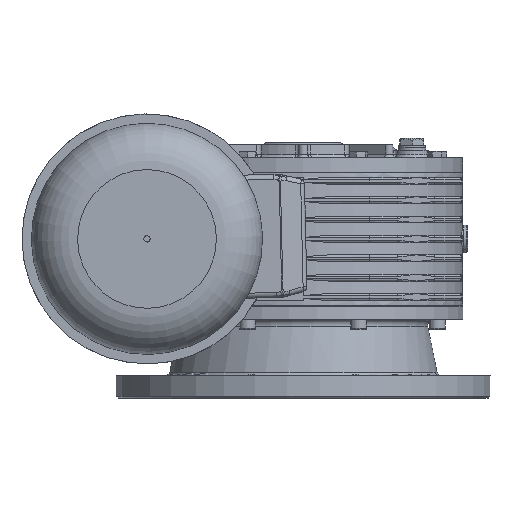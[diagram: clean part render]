
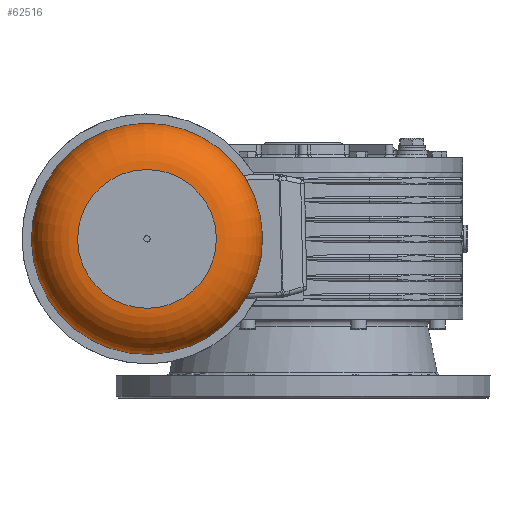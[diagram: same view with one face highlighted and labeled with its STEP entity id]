
A CAD part, left-side view. The second image highlights one B-rep face of the part: STEP entity #62516.
In plain terms, the highlighted toroidal (fillet/blend) face has major radius 55.5 mm and minor radius 37 mm.
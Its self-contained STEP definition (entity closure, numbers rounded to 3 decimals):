
#62489=CARTESIAN_POINT('',(399.,0.0,0.0));
#62490=DIRECTION('',(1.0,0.0,0.0));
#62491=DIRECTION('',(0.0,0.0,-1.0));
#62492=AXIS2_PLACEMENT_3D('',#62489,#62490,#62491);
#62493=TOROIDAL_SURFACE('',#62492,55.5,37.0);
#62494=CARTESIAN_POINT('',(436.,55.5,0.0));
#62495=VERTEX_POINT('',#62494);
#62496=CARTESIAN_POINT('',(436.,0.0,0.0));
#62497=DIRECTION('',(1.0,0.0,0.0));
#62498=DIRECTION('',(0.0,1.0,0.0));
#62499=AXIS2_PLACEMENT_3D('',#62496,#62497,#62498);
#62500=CIRCLE('',#62499,55.5);
#62501=EDGE_CURVE('',#62495,#62495,#62500,.T.);
#62502=ORIENTED_EDGE('',*,*,#62501,.F.);
#62503=EDGE_LOOP('',(#62502));
#62504=FACE_OUTER_BOUND('',#62503,.T.);
#62505=CARTESIAN_POINT('',(399.,92.5,0.0));
#62506=VERTEX_POINT('',#62505);
#62507=CARTESIAN_POINT('',(399.,0.0,0.0));
#62508=DIRECTION('',(1.0,0.0,0.0));
#62509=DIRECTION('',(0.0,1.0,0.0));
#62510=AXIS2_PLACEMENT_3D('',#62507,#62508,#62509);
#62511=CIRCLE('',#62510,92.5);
#62512=EDGE_CURVE('',#62506,#62506,#62511,.T.);
#62513=ORIENTED_EDGE('',*,*,#62512,.T.);
#62514=EDGE_LOOP('',(#62513));
#62515=FACE_BOUND('',#62514,.T.);
#62516=ADVANCED_FACE('',(#62504,#62515),#62493,.T.);
